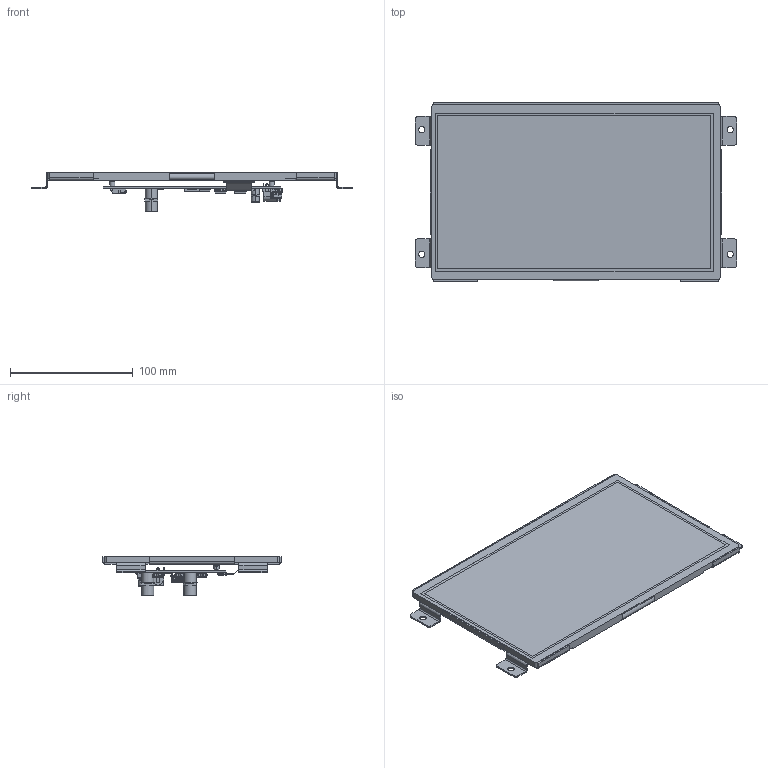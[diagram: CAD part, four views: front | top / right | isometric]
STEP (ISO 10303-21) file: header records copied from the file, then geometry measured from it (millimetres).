
FILE_DESCRIPTION (( 'STEP AP214' ), '1' );
FILE_NAME ('NHD-10.1-HDMI-A-RSXV_UPDATED.STEP', '2018-11-30T15:10:13', ( '' ), ( '' ), 'SwSTEP 2.0', 'SolidWorks 2018', '' );
FILE_SCHEMA (( 'AUTOMOTIVE_DESIGN' ));
Length unit declared in the file: millimetre
Products named in the file (1): NHD-10.1-HDMI-A-RSXV_UPDATED
Bounding box: 261.98 x 145.6 x 31.9 mm (x, y, z)
Surface area: 230014.4 mm2 (no closed solid volume)
Topology: 0 solids, 59 shells, 10817 faces, 32499 edges, 21314 vertices
Faces by surface type: plane 7966, cylinder 2629, bspline 182, cone 30, torus 10
Entity records: 488321 total; most frequent: CARTESIAN_POINT 71785, ORIENTED_EDGE 64920, DIRECTION 58420, EDGE_CURVE 32474, VECTOR 26662, LINE 26662, VERTEX_POINT 21314, AXIS2_PLACEMENT_3D 15879
